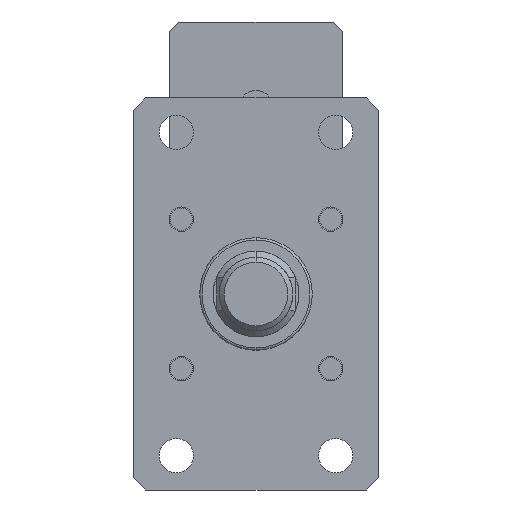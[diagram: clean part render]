
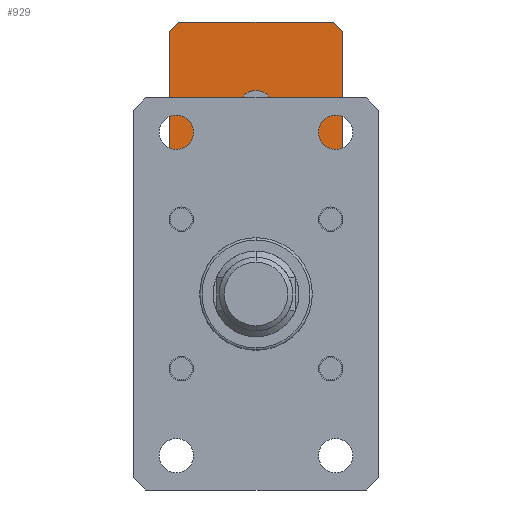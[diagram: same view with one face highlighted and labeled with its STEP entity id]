
A CAD part, front view. The second image highlights one B-rep face of the part: STEP entity #929.
In plain terms, the highlighted planar face has unit normal (0, -1, 0).
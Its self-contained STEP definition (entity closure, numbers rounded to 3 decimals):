
#7 = AXIS2_PLACEMENT_3D ( 'NONE', #7080, #3743, #391 ) ;
#22 = CARTESIAN_POINT ( 'NONE',  ( -31.5, 210., 40. ) ) ;
#96 = EDGE_CURVE ( 'NONE', #4799, #363, #189, .T. ) ;
#109 = DIRECTION ( 'NONE',  ( 0., 0., -1. ) ) ;
#116 = ORIENTED_EDGE ( 'NONE', *, *, #1588, .T. ) ;
#127 = CARTESIAN_POINT ( 'NONE',  ( 0., 210., 83. ) ) ;
#189 = LINE ( 'NONE', #7155, #1663 ) ;
#363 = VERTEX_POINT ( 'NONE', #399 ) ;
#391 = DIRECTION ( 'NONE',  ( 0., 0., -1. ) ) ;
#399 = CARTESIAN_POINT ( 'NONE',  ( 35.5, 210., 44. ) ) ;
#508 = VERTEX_POINT ( 'NONE', #903 ) ;
#560 = LINE ( 'NONE', #1243, #5983 ) ;
#632 = EDGE_CURVE ( 'NONE', #3462, #5133, #1549, .T. ) ;
#739 = LINE ( 'NONE', #3607, #6511 ) ;
#756 = VERTEX_POINT ( 'NONE', #22 ) ;
#823 = VERTEX_POINT ( 'NONE', #4865 ) ;
#903 = CARTESIAN_POINT ( 'NONE',  ( -35.5, 210., 44. ) ) ;
#929 = ADVANCED_FACE ( 'NONE', ( #5382, #6692 ), #6365, .F. ) ;
#1006 = EDGE_CURVE ( 'NONE', #823, #5751, #4863, .T. ) ;
#1042 = VECTOR ( 'NONE', #1939, 1000. ) ;
#1243 = CARTESIAN_POINT ( 'NONE',  ( -35.5, 210., 111. ) ) ;
#1328 = ORIENTED_EDGE ( 'NONE', *, *, #3759, .F. ) ;
#1549 = LINE ( 'NONE', #4990, #4342 ) ;
#1588 = EDGE_CURVE ( 'NONE', #756, #4799, #3221, .T. ) ;
#1615 = AXIS2_PLACEMENT_3D ( 'NONE', #6814, #3446, #109 ) ;
#1663 = VECTOR ( 'NONE', #2683, 1000. ) ;
#1716 = VECTOR ( 'NONE', #6053, 1000. ) ;
#1830 = ORIENTED_EDGE ( 'NONE', *, *, #2103, .F. ) ;
#1939 = DIRECTION ( 'NONE',  ( 0., 0., -1. ) ) ;
#2091 = DIRECTION ( 'NONE',  ( 0.707, 0., -0.707 ) ) ;
#2103 = EDGE_CURVE ( 'NONE', #5476, #2873, #3213, .T. ) ;
#2191 = CARTESIAN_POINT ( 'NONE',  ( 31.5, 210., 40. ) ) ;
#2230 = CARTESIAN_POINT ( 'NONE',  ( 31.5, 210., 111. ) ) ;
#2524 = LINE ( 'NONE', #4736, #1042 ) ;
#2659 = LINE ( 'NONE', #3206, #3947 ) ;
#2683 = DIRECTION ( 'NONE',  ( 0.707, 0., 0.707 ) ) ;
#2873 = VERTEX_POINT ( 'NONE', #127 ) ;
#2941 = CARTESIAN_POINT ( 'NONE',  ( -31.5, 210., 111. ) ) ;
#3063 = DIRECTION ( 'NONE',  ( -0.707, 0., 0.707 ) ) ;
#3206 = CARTESIAN_POINT ( 'NONE',  ( -35.5, 210., 44. ) ) ;
#3213 = CIRCLE ( 'NONE', #7, 7.5 ) ;
#3221 = LINE ( 'NONE', #5486, #1716 ) ;
#3301 = ORIENTED_EDGE ( 'NONE', *, *, #632, .T. ) ;
#3446 = DIRECTION ( 'NONE',  ( 0., -1., 0. ) ) ;
#3462 = VERTEX_POINT ( 'NONE', #4388 ) ;
#3477 = ORIENTED_EDGE ( 'NONE', *, *, #4724, .T. ) ;
#3581 = ORIENTED_EDGE ( 'NONE', *, *, #4587, .F. ) ;
#3607 = CARTESIAN_POINT ( 'NONE',  ( 35.5, 210., 111. ) ) ;
#3642 = AXIS2_PLACEMENT_3D ( 'NONE', #6926, #5758, #4133 ) ;
#3654 = CIRCLE ( 'NONE', #1615, 7.5 ) ;
#3743 = DIRECTION ( 'NONE',  ( 0., -1., 0. ) ) ;
#3748 = ORIENTED_EDGE ( 'NONE', *, *, #1006, .T. ) ;
#3759 = EDGE_CURVE ( 'NONE', #823, #5133, #560, .T. ) ;
#3769 = ORIENTED_EDGE ( 'NONE', *, *, #5941, .T. ) ;
#3947 = VECTOR ( 'NONE', #2091, 1000. ) ;
#4133 = DIRECTION ( 'NONE',  ( 0., 0., 1. ) ) ;
#4289 = CARTESIAN_POINT ( 'NONE',  ( 0., 210., 68. ) ) ;
#4342 = VECTOR ( 'NONE', #3063, 1000. ) ;
#4388 = CARTESIAN_POINT ( 'NONE',  ( 35.5, 210., 107. ) ) ;
#4497 = CARTESIAN_POINT ( 'NONE',  ( -35.5, 210., 107. ) ) ;
#4587 = EDGE_CURVE ( 'NONE', #3462, #363, #739, .T. ) ;
#4724 = EDGE_CURVE ( 'NONE', #508, #756, #2659, .T. ) ;
#4736 = CARTESIAN_POINT ( 'NONE',  ( -35.5, 210., 111. ) ) ;
#4799 = VERTEX_POINT ( 'NONE', #2191 ) ;
#4863 = LINE ( 'NONE', #2941, #6158 ) ;
#4865 = CARTESIAN_POINT ( 'NONE',  ( -31.5, 210., 111. ) ) ;
#4990 = CARTESIAN_POINT ( 'NONE',  ( 31.5, 210., 111. ) ) ;
#5081 = ORIENTED_EDGE ( 'NONE', *, *, #6524, .F. ) ;
#5133 = VERTEX_POINT ( 'NONE', #2230 ) ;
#5157 = DIRECTION ( 'NONE',  ( 1., 0., 0. ) ) ;
#5201 = ORIENTED_EDGE ( 'NONE', *, *, #96, .T. ) ;
#5279 = DIRECTION ( 'NONE',  ( 0., 0., -1. ) ) ;
#5382 = FACE_BOUND ( 'NONE', #6474, .T. ) ;
#5476 = VERTEX_POINT ( 'NONE', #4289 ) ;
#5486 = CARTESIAN_POINT ( 'NONE',  ( -35.5, 210., 40. ) ) ;
#5751 = VERTEX_POINT ( 'NONE', #4497 ) ;
#5758 = DIRECTION ( 'NONE',  ( 0., 1., 0. ) ) ;
#5779 = EDGE_LOOP ( 'NONE', ( #3769, #3477, #116, #5201, #3581, #3301, #1328, #3748 ) ) ;
#5941 = EDGE_CURVE ( 'NONE', #5751, #508, #2524, .T. ) ;
#5983 = VECTOR ( 'NONE', #5157, 1000. ) ;
#6053 = DIRECTION ( 'NONE',  ( 1., 0., 0. ) ) ;
#6158 = VECTOR ( 'NONE', #6858, 1000. ) ;
#6365 = PLANE ( 'NONE',  #3642 ) ;
#6474 = EDGE_LOOP ( 'NONE', ( #1830, #5081 ) ) ;
#6511 = VECTOR ( 'NONE', #5279, 1000. ) ;
#6524 = EDGE_CURVE ( 'NONE', #2873, #5476, #3654, .T. ) ;
#6692 = FACE_OUTER_BOUND ( 'NONE', #5779, .T. ) ;
#6814 = CARTESIAN_POINT ( 'NONE',  ( 0., 210., 75.5 ) ) ;
#6858 = DIRECTION ( 'NONE',  ( -0.707, 0., -0.707 ) ) ;
#6926 = CARTESIAN_POINT ( 'NONE',  ( -35.5, 210., 111. ) ) ;
#7080 = CARTESIAN_POINT ( 'NONE',  ( 0., 210., 75.5 ) ) ;
#7155 = CARTESIAN_POINT ( 'NONE',  ( 35.5, 210., 44. ) ) ;
